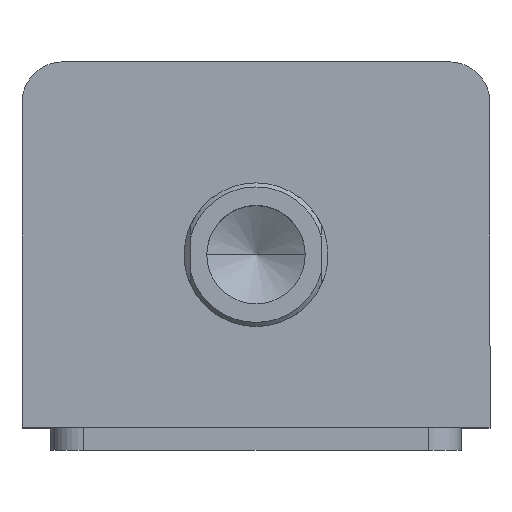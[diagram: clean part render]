
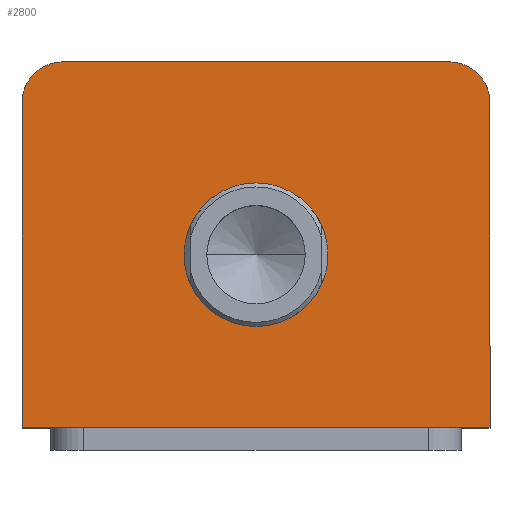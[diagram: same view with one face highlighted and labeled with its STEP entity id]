
A CAD part, top view. The second image highlights one B-rep face of the part: STEP entity #2800.
In plain terms, the highlighted planar face has unit normal (0, 0, 1).
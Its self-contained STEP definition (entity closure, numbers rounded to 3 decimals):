
#68 = LINE ( 'NONE', #472, #71 ) ;
#71 = VECTOR ( 'NONE', #473, 1000. ) ;
#79 = CIRCLE ( 'NONE', #2897, 10. ) ;
#90 = CIRCLE ( 'NONE', #2878, 10. ) ;
#97 = LINE ( 'NONE', #2646, #100 ) ;
#100 = VECTOR ( 'NONE', #2647, 1000. ) ;
#336 = CARTESIAN_POINT ( 'NONE',  ( 0., 0., 137. ) ) ;
#337 = PLANE ( 'NONE',  #2947 ) ;
#342 = DIRECTION ( 'NONE',  ( 0., 0., 1. ) ) ;
#343 = DIRECTION ( 'NONE',  ( 1., 0., 0. ) ) ;
#472 = CARTESIAN_POINT ( 'NONE',  ( 57., 44.5, 137. ) ) ;
#473 = DIRECTION ( 'NONE',  ( 0., 1., 0. ) ) ;
#612 = FACE_BOUND ( 'NONE', #1068, .T. ) ;
#616 = FACE_OUTER_BOUND ( 'NONE', #1213, .T. ) ;
#804 = CARTESIAN_POINT ( 'NONE',  ( 0., -2.5, 137. ) ) ;
#805 = DIRECTION ( 'NONE',  ( 0., 0., 1. ) ) ;
#806 = DIRECTION ( 'NONE',  ( 1., 0., 0. ) ) ;
#935 = ORIENTED_EDGE ( 'NONE', *, *, #3260, .F. ) ;
#936 = ORIENTED_EDGE ( 'NONE', *, *, #3265, .F. ) ;
#937 = ORIENTED_EDGE ( 'NONE', *, *, #3196, .T. ) ;
#938 = ORIENTED_EDGE ( 'NONE', *, *, #3062, .T. ) ;
#939 = ORIENTED_EDGE ( 'NONE', *, *, #3067, .T. ) ;
#940 = ORIENTED_EDGE ( 'NONE', *, *, #3252, .T. ) ;
#941 = ORIENTED_EDGE ( 'NONE', *, *, #3041, .T. ) ;
#942 = ORIENTED_EDGE ( 'NONE', *, *, #3051, .T. ) ;
#1068 = EDGE_LOOP ( 'NONE', ( #935, #936 ) ) ;
#1165 = DIRECTION ( 'NONE',  ( 1., 0., 0. ) ) ;
#1166 = CARTESIAN_POINT ( 'NONE',  ( -57., -44.5, 137. ) ) ;
#1199 = CARTESIAN_POINT ( 'NONE',  ( 0., -2.5, 137. ) ) ;
#1200 = DIRECTION ( 'NONE',  ( 0., 0., 1. ) ) ;
#1201 = DIRECTION ( 'NONE',  ( 1., 0., 0. ) ) ;
#1213 = EDGE_LOOP ( 'NONE', ( #937, #938, #939, #940, #941, #942 ) ) ;
#1438 = LINE ( 'NONE', #1166, #1440 ) ;
#1440 = VECTOR ( 'NONE', #1165, 1000. ) ;
#1449 = CIRCLE ( 'NONE', #2842, 17.5 ) ;
#1458 = CIRCLE ( 'NONE', #2839, 17.5 ) ;
#1547 = VERTEX_POINT ( 'NONE', #2193 ) ;
#1549 = VERTEX_POINT ( 'NONE', #2195 ) ;
#1550 = VERTEX_POINT ( 'NONE', #2196 ) ;
#1552 = VERTEX_POINT ( 'NONE', #2198 ) ;
#1566 = VERTEX_POINT ( 'NONE', #2211 ) ;
#1569 = VERTEX_POINT ( 'NONE', #2214 ) ;
#1588 = VERTEX_POINT ( 'NONE', #2233 ) ;
#1591 = VERTEX_POINT ( 'NONE', #2236 ) ;
#1684 = CARTESIAN_POINT ( 'NONE',  ( -57., 44.5, 137. ) ) ;
#1685 = DIRECTION ( 'NONE',  ( -1., 0., 0. ) ) ;
#2002 = LINE ( 'NONE', #1684, #2005 ) ;
#2005 = VECTOR ( 'NONE', #1685, 1000. ) ;
#2193 = CARTESIAN_POINT ( 'NONE',  ( -17.5, -2.5, 137. ) ) ;
#2195 = CARTESIAN_POINT ( 'NONE',  ( -57., -44.5, 137. ) ) ;
#2196 = CARTESIAN_POINT ( 'NONE',  ( 17.5, -2.5, 137. ) ) ;
#2198 = CARTESIAN_POINT ( 'NONE',  ( 57., -44.5, 137. ) ) ;
#2211 = CARTESIAN_POINT ( 'NONE',  ( 47., 44.5, 137. ) ) ;
#2214 = CARTESIAN_POINT ( 'NONE',  ( -47., 44.5, 137. ) ) ;
#2233 = CARTESIAN_POINT ( 'NONE',  ( 57., 34.5, 137. ) ) ;
#2236 = CARTESIAN_POINT ( 'NONE',  ( -57., 34.5, 137. ) ) ;
#2607 = CARTESIAN_POINT ( 'NONE',  ( 47., 34.5, 137. ) ) ;
#2608 = DIRECTION ( 'NONE',  ( 0., 0., 1. ) ) ;
#2609 = DIRECTION ( 'NONE',  ( 1., 0., 0. ) ) ;
#2633 = CARTESIAN_POINT ( 'NONE',  ( -47., 34.5, 137. ) ) ;
#2634 = DIRECTION ( 'NONE',  ( 0., 0., 1. ) ) ;
#2635 = DIRECTION ( 'NONE',  ( 1., 0., 0. ) ) ;
#2646 = CARTESIAN_POINT ( 'NONE',  ( -57., 44.5, 137. ) ) ;
#2647 = DIRECTION ( 'NONE',  ( 0., -1., 0. ) ) ;
#2800 = ADVANCED_FACE ( 'NONE', ( #612, #616 ), #337, .T. ) ;
#2839 = AXIS2_PLACEMENT_3D ( 'NONE', #804, #805, #806 ) ;
#2842 = AXIS2_PLACEMENT_3D ( 'NONE', #1199, #1200, #1201 ) ;
#2878 = AXIS2_PLACEMENT_3D ( 'NONE', #2633, #2634, #2635 ) ;
#2897 = AXIS2_PLACEMENT_3D ( 'NONE', #2607, #2608, #2609 ) ;
#2947 = AXIS2_PLACEMENT_3D ( 'NONE', #336, #342, #343 ) ;
#3041 = EDGE_CURVE ( 'NONE', #1552, #1588, #68, .T. ) ;
#3051 = EDGE_CURVE ( 'NONE', #1588, #1566, #79, .T. ) ;
#3062 = EDGE_CURVE ( 'NONE', #1569, #1591, #90, .T. ) ;
#3067 = EDGE_CURVE ( 'NONE', #1591, #1549, #97, .T. ) ;
#3196 = EDGE_CURVE ( 'NONE', #1566, #1569, #2002, .T. ) ;
#3252 = EDGE_CURVE ( 'NONE', #1549, #1552, #1438, .T. ) ;
#3260 = EDGE_CURVE ( 'NONE', #1550, #1547, #1449, .T. ) ;
#3265 = EDGE_CURVE ( 'NONE', #1547, #1550, #1458, .T. ) ;
